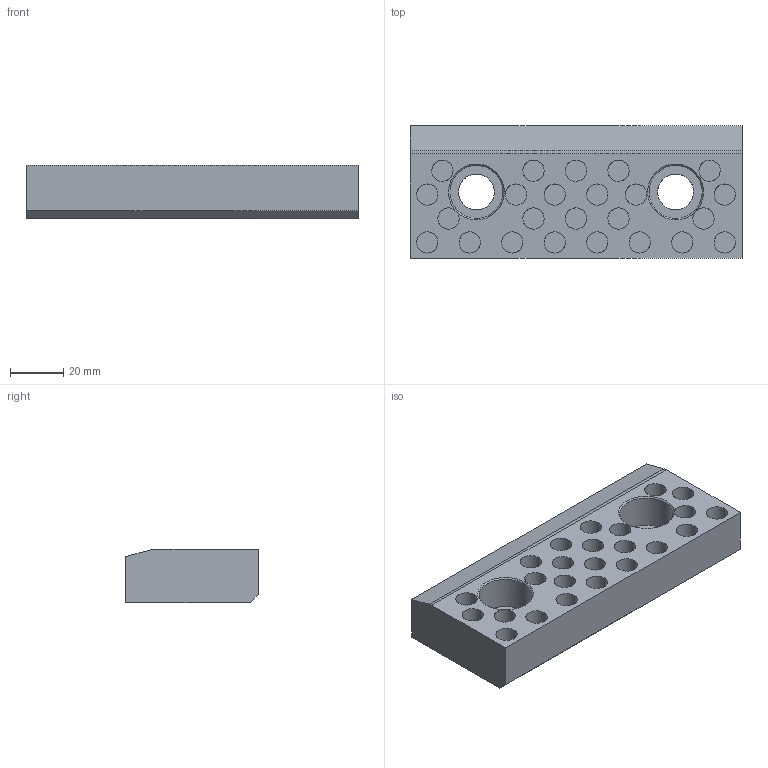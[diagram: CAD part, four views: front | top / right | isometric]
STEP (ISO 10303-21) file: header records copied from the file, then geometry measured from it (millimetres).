
FILE_DESCRIPTION (( 'STEP AP214' ), '1' );
FILE_NAME ('SW224-01-125x50.STEP', '2020-10-14T13:49:56', ( 'August' ), ( '' ), 'SwSTEP 2.0', 'SolidWorks 2018', '' );
FILE_SCHEMA (( 'AUTOMOTIVE_DESIGN' ));
Length unit declared in the file: millimetre
Products named in the file (1): SW224-01-125x50
Bounding box: 125 x 50 x 20 mm (x, y, z)
Volume: 104369.3 mm3; surface area: 24673.4 mm2
Topology: 1 solids, 1 shells, 95 faces, 202 edges, 133 vertices
Faces by surface type: cylinder 57, plane 34, cone 4
Entity records: 4709 total; most frequent: CARTESIAN_POINT 2753, ORIENTED_EDGE 404, B_SPLINE_CURVE_WITH_KNOTS 202, EDGE_CURVE 202, DIRECTION 192, VERTEX_POINT 133, EDGE_LOOP 123, AXIS2_PLACEMENT_3D 96
